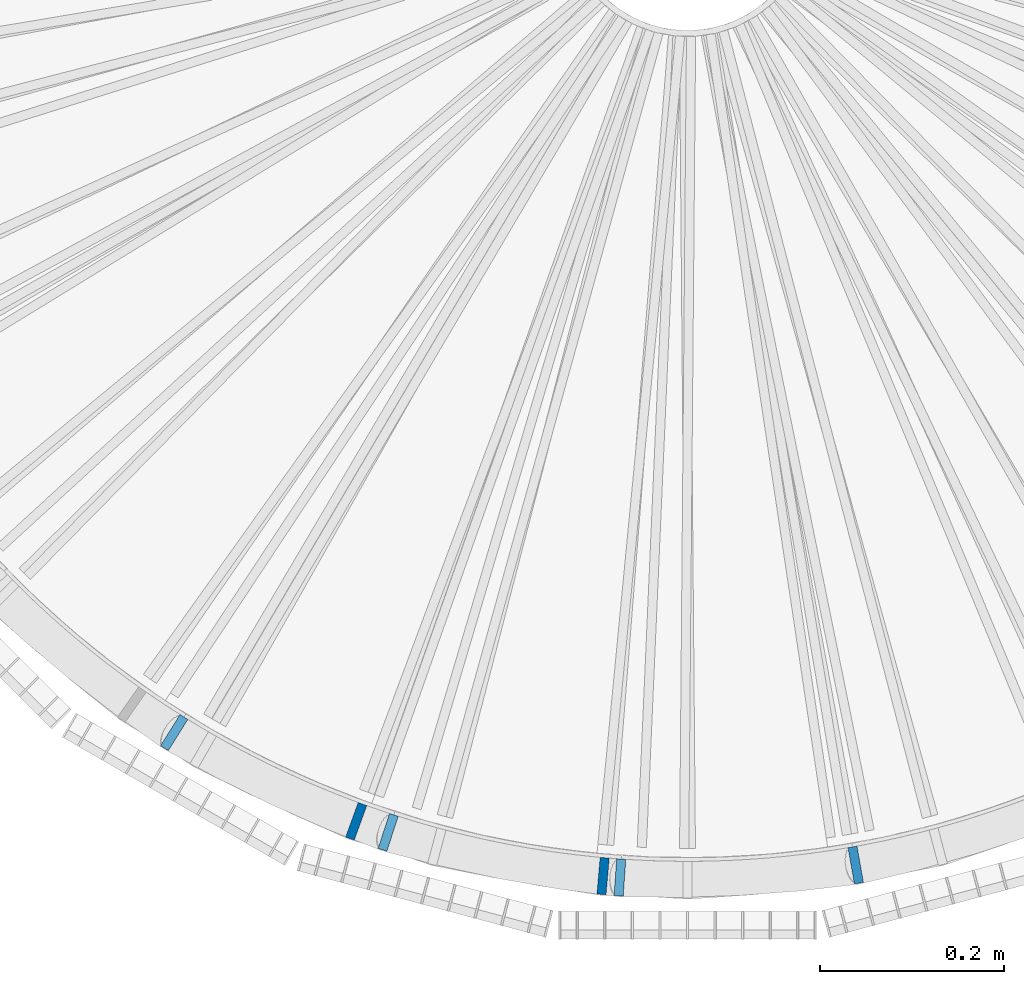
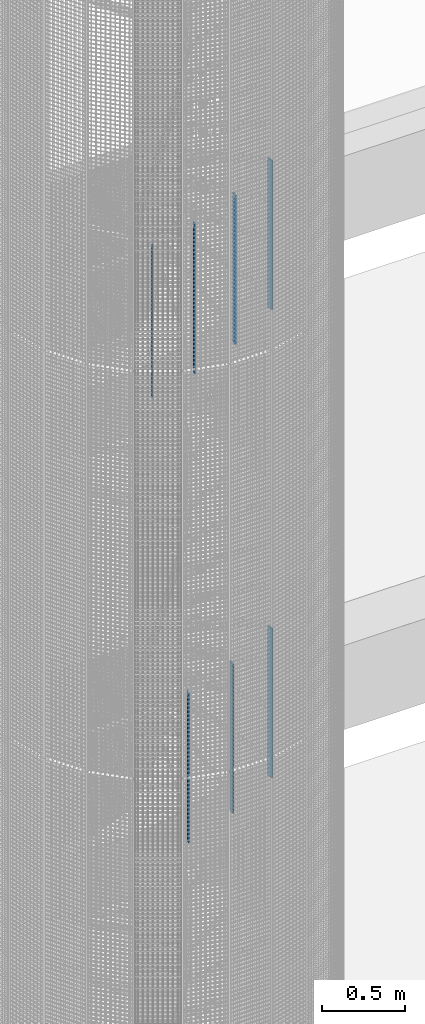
# One storey, part 4 of 1183: 7 columns, 7 elements without a shape of their own.
"""IFC2X3 building model written with IfcOpenShell, lengths in millimetres."""

from ifc_helpers import new_model, si_unit, frame, origin_with_axes, origin_2d_with_axis, place, context, subcontext, project, spatial, rectangle, extrude, material, type_object, element, aggregate, save


model = new_model("IFC2X3")

# Units and contexts
model_context = context("Model", 3, precision=1e-05, world=origin_with_axes())
body_context = subcontext(model_context, "Body", "Model", "MODEL_VIEW")
ifc_project = project(units=[si_unit("LENGTHUNIT", "METRE", prefix="MILLI"), si_unit("AREAUNIT", "SQUARE_METRE"), si_unit("VOLUMEUNIT", "CUBIC_METRE"), si_unit("MASSUNIT", "GRAM", prefix="KILO"), si_unit("TIMEUNIT", "SECOND"), si_unit("PLANEANGLEUNIT", "RADIAN"), si_unit("SOLIDANGLEUNIT", "STERADIAN"), si_unit("THERMODYNAMICTEMPERATUREUNIT", "DEGREE_CELSIUS"), si_unit("LUMINOUSINTENSITYUNIT", "LUMEN")], contexts=[model_context])

# Site, building, storey
site_placement = place(None, origin_with_axes())
site = spatial("IfcSite", under=ifc_project, at=site_placement, Name="Undefined", CompositionType="ELEMENT")
building_placement = place(site_placement, origin_with_axes())
building = spatial("IfcBuilding", under=site, at=building_placement, Name="Undefined", CompositionType="ELEMENT")
storey_placement = place(building_placement, origin_with_axes())
storey = spatial("IfcBuildingStorey", under=building, at=storey_placement, Name="Undefined", CompositionType="ELEMENT", Elevation=0.0)

# Assembly, column
assembly_1_placement = place(storey_placement, origin_with_axes())
assembly_1 = element("IfcElementAssembly", 1, at=assembly_1_placement, inside=storey, Name="MONTANT", AssemblyPlace="NOTDEFINED", PredefinedType="NOTDEFINED")
ifc_material = material(Name="STEEL/S235JR")
column_type = type_object("IfcColumnType", Name="PL10*40", PredefinedType="NOTDEFINED")
column_1_placement = place(assembly_1_placement, frame((-325.703912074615, -1002.41356818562, 14942.16), z_axis=(0.0, 0.0, 1.0), x_axis=(0.309016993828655, 0.951056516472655, 0.0)))
column_1 = element("IfcColumn", 2, at=column_1_placement, type_object=column_type, material=ifc_material, Name="MONTANT", context=body_context, shape_type="SweptSolid", body=[
    extrude(rectangle(XDim=10.0, YDim=40.0, at=origin_2d_with_axis()), frame((0.0, 0.0, 1100.0), z_axis=(0.0, 0.0, -1.0), x_axis=(0.0, 1.0, 0.0)), (0.0, 0.0, 1.0), 1100.0),
])
aggregate(assembly_1, [column_1])

assembly_2_placement = place(storey_placement, origin_with_axes())
assembly_2 = element("IfcElementAssembly", 3, at=assembly_2_placement, inside=storey, Name="MONTANT", AssemblyPlace="NOTDEFINED", PredefinedType="NOTDEFINED")
column_2_placement = place(assembly_2_placement, frame((-558.53490449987, -893.842693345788, 14785.64), z_axis=(0.0, 0.0, 1.0), x_axis=(0.52991926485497, 0.848048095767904, 0.0)))
column_2 = element("IfcColumn", 4, at=column_2_placement, type_object=column_type, material=ifc_material, Name="MONTANT", context=body_context, shape_type="SweptSolid", body=[
    extrude(rectangle(XDim=10.0, YDim=40.0, at=origin_2d_with_axis()), frame((0.0, 0.0, 1100.0), z_axis=(0.0, 0.0, -1.0), x_axis=(0.0, 1.0, 0.0)), (0.0, 0.0, 1.0), 1100.0),
])
aggregate(assembly_2, [column_2])

assembly_3_placement = place(storey_placement, origin_with_axes())
assembly_3 = element("IfcElementAssembly", 5, at=assembly_3_placement, inside=storey, Name="MONTANT", AssemblyPlace="NOTDEFINED", PredefinedType="NOTDEFINED")
column_3_placement = place(assembly_3_placement, frame((-73.5233233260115, -1051.43250896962, 15098.68), z_axis=(0.0, 0.0, 1.0), x_axis=(0.0697564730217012, 0.997564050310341, 0.0)))
column_3 = element("IfcColumn", 6, at=column_3_placement, type_object=column_type, material=ifc_material, Name="MONTANT", context=body_context, shape_type="SweptSolid", body=[
    extrude(rectangle(XDim=10.0, YDim=40.0, at=origin_2d_with_axis()), frame((0.0, 0.0, 1100.0), z_axis=(0.0, 0.0, -1.0), x_axis=(0.0, 1.0, 0.0)), (0.0, 0.0, 1.0), 1100.0),
])
aggregate(assembly_3, [column_3])

assembly_4_placement = place(storey_placement, origin_with_axes())
assembly_4 = element("IfcElementAssembly", 7, at=assembly_4_placement, inside=storey, Name="MONTANT", AssemblyPlace="NOTDEFINED", PredefinedType="NOTDEFINED")
column_4_placement = place(assembly_4_placement, frame((183.025179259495, -1037.98737166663, 15255.2), z_axis=(0.0, 0.0, 1.0), x_axis=(-0.173648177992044, 0.984807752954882, 0.0)))
column_4 = element("IfcColumn", 8, at=column_4_placement, type_object=column_type, material=ifc_material, Name="MONTANT", context=body_context, shape_type="SweptSolid", body=[
    extrude(rectangle(XDim=10.0, YDim=40.0, at=origin_2d_with_axis()), frame((0.0, 0.0, 1100.0), z_axis=(0.0, 0.0, -1.0), x_axis=(0.0, 1.0, 0.0)), (0.0, 0.0, 1.0), 1100.0),
])
aggregate(assembly_4, [column_4])

assembly_5_placement = place(storey_placement, origin_with_axes())
assembly_5 = element("IfcElementAssembly", 9, at=assembly_5_placement, inside=storey, Name="MONTANT", AssemblyPlace="NOTDEFINED", PredefinedType="NOTDEFINED")
column_5_placement = place(assembly_5_placement, frame((-360.489231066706, -990.436022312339, 11498.68), z_axis=(0.0, 0.0, 1.0), x_axis=(0.342020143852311, 0.939692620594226, 0.0)))
column_5 = element("IfcColumn", 10, at=column_5_placement, type_object=column_type, material=ifc_material, Name="MONTANT", context=body_context, shape_type="SweptSolid", body=[
    extrude(rectangle(XDim=10.0, YDim=40.0, at=origin_2d_with_axis()), frame((0.0, 0.0, 1100.0), z_axis=(0.0, 0.0, -1.0), x_axis=(0.0, 1.0, 0.0)), (0.0, 0.0, 1.0), 1100.0),
])
aggregate(assembly_5, [column_5])

assembly_6_placement = place(storey_placement, origin_with_axes())
assembly_6 = element("IfcElementAssembly", 11, at=assembly_6_placement, inside=storey, Name="MONTANT", AssemblyPlace="NOTDEFINED", PredefinedType="NOTDEFINED")
column_6_placement = place(assembly_6_placement, frame((-91.8621528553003, -1049.98921178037, 11655.2), z_axis=(0.0, 0.0, 1.0), x_axis=(0.0871557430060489, 0.996194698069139, 0.0)))
column_6 = element("IfcColumn", 12, at=column_6_placement, type_object=column_type, material=ifc_material, Name="MONTANT", context=body_context, shape_type="SweptSolid", body=[
    extrude(rectangle(XDim=10.0, YDim=40.0, at=origin_2d_with_axis()), frame((0.0, 0.0, 1100.0), z_axis=(0.0, 0.0, -1.0), x_axis=(0.0, 1.0, 0.0)), (0.0, 0.0, 1.0), 1100.0),
])
aggregate(assembly_6, [column_6])

assembly_7_placement = place(storey_placement, origin_with_axes())
assembly_7 = element("IfcElementAssembly", 13, at=assembly_7_placement, inside=storey, Name="MONTANT", AssemblyPlace="NOTDEFINED", PredefinedType="NOTDEFINED")
column_7_placement = place(assembly_7_placement, frame((183.025179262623, -1037.98737168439, 11811.72), z_axis=(0.0, 0.0, 1.0), x_axis=(-0.173648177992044, 0.984807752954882, 0.0)))
column_7 = element("IfcColumn", 14, at=column_7_placement, type_object=column_type, material=ifc_material, Name="MONTANT", context=body_context, shape_type="SweptSolid", body=[
    extrude(rectangle(XDim=10.0, YDim=40.0, at=origin_2d_with_axis()), frame((0.0, 0.0, 1100.0), z_axis=(0.0, 0.0, -1.0), x_axis=(0.0, 1.0, 0.0)), (0.0, 0.0, 1.0), 1100.0),
])
aggregate(assembly_7, [column_7])

save(model, "model.ifc")
